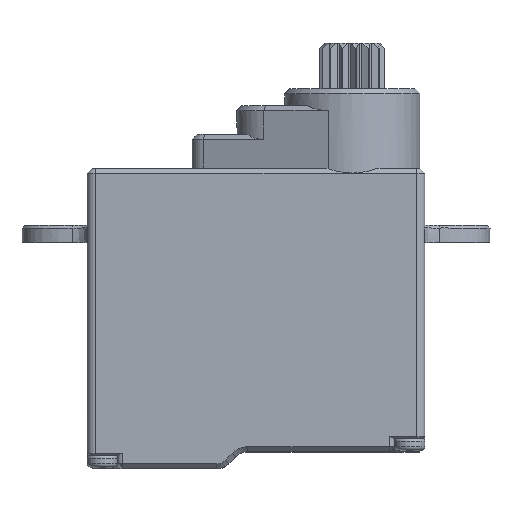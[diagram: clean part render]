
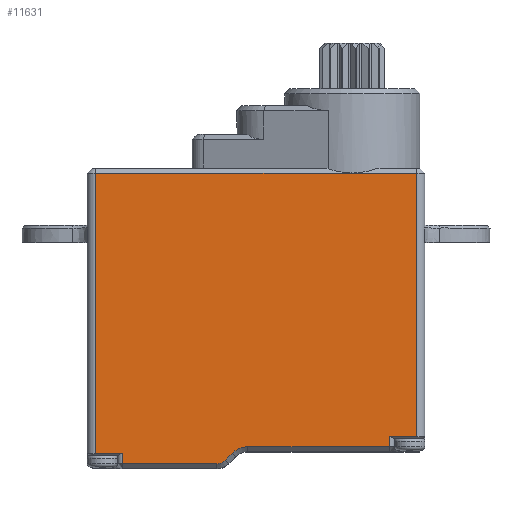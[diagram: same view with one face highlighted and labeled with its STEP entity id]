
A CAD part, top view. The second image highlights one B-rep face of the part: STEP entity #11631.
In plain terms, the highlighted planar face has unit normal (0, 0, 1).
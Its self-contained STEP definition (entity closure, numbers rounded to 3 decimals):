
#675=DIRECTION('',(-1.,0.,0.));
#676=VECTOR('',#675,8.386);
#677=CARTESIAN_POINT('',(7.9,-12.1,4.));
#678=LINE('',#677,#676);
#682=CARTESIAN_POINT('',(-0.486,-13.4,4.));
#683=DIRECTION('',(0.,0.,1.));
#684=DIRECTION('',(0.,1.,0.));
#685=AXIS2_PLACEMENT_3D('',#682,#683,#684);
#690=DIRECTION('',(-0.707,-0.707,0.));
#691=VECTOR('',#690,0.586);
#692=CARTESIAN_POINT('',(-1.405,-12.481,4.));
#693=LINE('',#692,#691);
#697=CARTESIAN_POINT('',(-2.314,-12.4,4.));
#698=DIRECTION('',(0.,0.,-1.));
#699=DIRECTION('',(0.707,-0.707,0.));
#700=AXIS2_PLACEMENT_3D('',#697,#698,#699);
#705=DIRECTION('',(-1.,0.,0.));
#706=VECTOR('',#705,5.586);
#707=CARTESIAN_POINT('',(-2.314,-13.1,4.));
#708=LINE('',#707,#706);
#712=DIRECTION('',(0.,1.,0.));
#713=VECTOR('',#712,16.6);
#714=CARTESIAN_POINT('',(-9.5,-12.5,4.));
#715=LINE('',#714,#713);
#719=DIRECTION('',(1.,0.,0.));
#720=VECTOR('',#719,15.198);
#721=CARTESIAN_POINT('',(-9.5,4.1,4.));
#722=LINE('',#721,#720);
#726=DIRECTION('',(1.,0.,0.));
#727=VECTOR('',#726,3.802);
#728=CARTESIAN_POINT('',(5.698,4.1,4.));
#729=LINE('',#728,#727);
#740=DIRECTION('',(0.,1.,0.));
#741=VECTOR('',#740,15.6);
#742=CARTESIAN_POINT('',(9.5,-11.5,4.));
#743=LINE('',#742,#741);
#1367=DIRECTION('',(1.,0.,0.));
#1368=VECTOR('',#1367,1.6);
#1369=CARTESIAN_POINT('',(-9.5,-12.5,
4.));
#1370=LINE('',#1369,#1368);
#1383=CARTESIAN_POINT('',(-7.9,-12.5,
4.));
#1388=DIRECTION('',(0.,-1.,0.));
#1389=VECTOR('',#1388,0.6);
#1390=CARTESIAN_POINT('',(-7.9,-12.5,
4.));
#1391=LINE('',#1390,#1389);
#1511=DIRECTION('',(0.,1.,0.));
#1512=VECTOR('',#1511,0.6);
#1513=CARTESIAN_POINT('',(7.9,-12.1,4.));
#1514=LINE('',#1513,#1512);
#1534=DIRECTION('',(1.,0.,0.));
#1535=VECTOR('',#1534,1.6);
#1536=CARTESIAN_POINT('',(7.9,-11.5,4.));
#1537=LINE('',#1536,#1535);
#9813=CARTESIAN_POINT('',(-9.5,4.1,4.));
#9814=VERTEX_POINT('',#9813);
#9815=CARTESIAN_POINT('',(5.698,4.1,4.));
#9816=VERTEX_POINT('',#9815);
#9835=CARTESIAN_POINT('',(9.5,4.1,4.));
#9836=VERTEX_POINT('',#9835);
#10313=CARTESIAN_POINT('',(-9.5,-12.5,4.));
#10315=VERTEX_POINT('',#10313);
#10417=CARTESIAN_POINT('',(-7.9,-13.1,4.));
#10418=VERTEX_POINT('',#10417);
#10419=VERTEX_POINT('',#1383);
#10420=CARTESIAN_POINT('',(7.9,-11.5,
4.));
#10421=CARTESIAN_POINT('',(9.5,-11.5,
4.));
#10422=VERTEX_POINT('',#10420);
#10423=VERTEX_POINT('',#10421);
#10424=CARTESIAN_POINT('',(7.9,-12.1,
4.));
#10425=VERTEX_POINT('',#10424);
#10426=CARTESIAN_POINT('',(-0.486,-12.1,
4.));
#10427=VERTEX_POINT('',#10426);
#10428=CARTESIAN_POINT('',(-1.405,-12.481,4.));
#10429=VERTEX_POINT('',#10428);
#10430=CARTESIAN_POINT('',(-1.819,-12.895,
4.));
#10431=VERTEX_POINT('',#10430);
#10432=CARTESIAN_POINT('',(-2.314,-13.1,4.));
#10433=VERTEX_POINT('',#10432);
#11599=CARTESIAN_POINT('',(-10.,0.,4.));
#11600=DIRECTION('',(0.,0.,1.));
#11601=DIRECTION('',(1.,0.,0.));
#11602=AXIS2_PLACEMENT_3D('',#11599,#11600,#11601);
#11603=PLANE('',#11602);
#11605=ORIENTED_EDGE('',*,*,#11604,.F.);
#11607=ORIENTED_EDGE('',*,*,#11606,.F.);
#11609=ORIENTED_EDGE('',*,*,#11608,.F.);
#11611=ORIENTED_EDGE('',*,*,#11610,.T.);
#11613=ORIENTED_EDGE('',*,*,#11612,.T.);
#11615=ORIENTED_EDGE('',*,*,#11614,.T.);
#11617=ORIENTED_EDGE('',*,*,#11616,.T.);
#11619=ORIENTED_EDGE('',*,*,#11618,.T.);
#11621=ORIENTED_EDGE('',*,*,#11620,.F.);
#11623=ORIENTED_EDGE('',*,*,#11622,.F.);
#11624=ORIENTED_EDGE('',*,*,#11582,.T.);
#11626=ORIENTED_EDGE('',*,*,#11625,.T.);
#11628=ORIENTED_EDGE('',*,*,#11627,.T.);
#11629=EDGE_LOOP('',(#11605,#11607,#11609,#11611,#11613,#11615,#11617,#11619,
#11621,#11623,#11624,#11626,#11628));
#11630=FACE_OUTER_BOUND('',#11629,.F.);
#686=CIRCLE('',#685,1.3);
#701=CIRCLE('',#700,0.7);
#11582=EDGE_CURVE('',#10315,#9814,#715,.T.);
#11604=EDGE_CURVE('',#10423,#9836,#743,.T.);
#11606=EDGE_CURVE('',#10422,#10423,#1537,.T.);
#11608=EDGE_CURVE('',#10425,#10422,#1514,.T.);
#11610=EDGE_CURVE('',#10425,#10427,#678,.T.);
#11612=EDGE_CURVE('',#10427,#10429,#686,.T.);
#11614=EDGE_CURVE('',#10429,#10431,#693,.T.);
#11616=EDGE_CURVE('',#10431,#10433,#701,.T.);
#11618=EDGE_CURVE('',#10433,#10418,#708,.T.);
#11620=EDGE_CURVE('',#10419,#10418,#1391,.T.);
#11622=EDGE_CURVE('',#10315,#10419,#1370,.T.);
#11625=EDGE_CURVE('',#9814,#9816,#722,.T.);
#11627=EDGE_CURVE('',#9816,#9836,#729,.T.);
#11631=ADVANCED_FACE('',(#11630),#11603,.T.);
